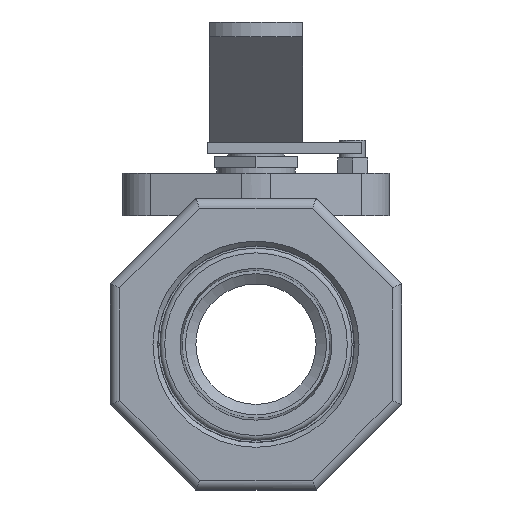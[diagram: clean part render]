
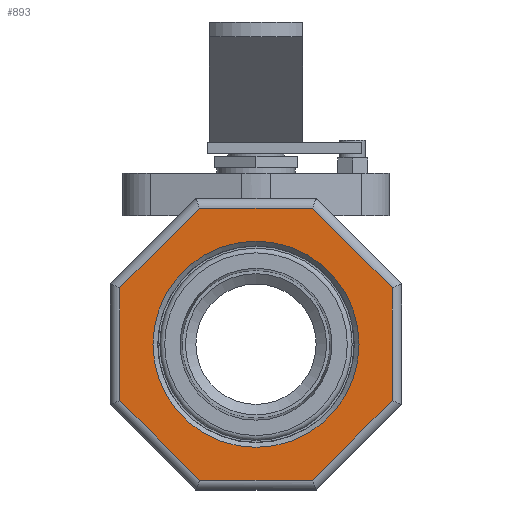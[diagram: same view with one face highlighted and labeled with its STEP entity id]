
A CAD part, left-side view. The second image highlights one B-rep face of the part: STEP entity #893.
In plain terms, the highlighted planar face has unit normal (-1, 0, 0).
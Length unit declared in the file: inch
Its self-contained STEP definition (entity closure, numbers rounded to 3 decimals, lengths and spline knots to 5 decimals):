
#807=CARTESIAN_POINT('',(0.69,1.075,0.0));
#808=VERTEX_POINT('',#807);
#809=CARTESIAN_POINT('',(0.69,0.0,0.0));
#810=DIRECTION('',(-1.0,0.0,0.0));
#811=DIRECTION('',(0.0,-1.0,0.0));
#812=AXIS2_PLACEMENT_3D('',#809,#810,#811);
#813=CIRCLE('',#812,1.075);
#814=EDGE_CURVE('',#808,#808,#813,.T.);
#819=CARTESIAN_POINT('',(0.69,0.0,0.0));
#820=DIRECTION('',(1.0,0.0,0.0));
#821=DIRECTION('',(0.0,0.0,-1.0));
#822=AXIS2_PLACEMENT_3D('',#819,#820,#821);
#823=PLANE('',#822);
#824=CARTESIAN_POINT('',(0.69,1.42,-0.58818));
#825=VERTEX_POINT('',#824);
#826=CARTESIAN_POINT('',(0.69,1.42,0.58818));
#827=VERTEX_POINT('',#826);
#828=CARTESIAN_POINT('',(0.69,1.42,-0.58818));
#829=DIRECTION('',(0.0,0.0,1.0));
#830=VECTOR('',#829,1.17637);
#831=LINE('',#828,#830);
#832=EDGE_CURVE('',#825,#827,#831,.T.);
#833=ORIENTED_EDGE('',*,*,#832,.F.);
#834=CARTESIAN_POINT('',(0.69,0.58818,-1.42));
#835=VERTEX_POINT('',#834);
#836=CARTESIAN_POINT('',(0.69,0.58818,-1.42));
#837=DIRECTION('',(0.0,0.707,0.707));
#838=VECTOR('',#837,1.17637);
#839=LINE('',#836,#838);
#840=EDGE_CURVE('',#835,#825,#839,.T.);
#841=ORIENTED_EDGE('',*,*,#840,.F.);
#842=CARTESIAN_POINT('',(0.69,-0.58818,-1.42));
#843=VERTEX_POINT('',#842);
#844=CARTESIAN_POINT('',(0.69,-0.58818,-1.42));
#845=DIRECTION('',(0.0,1.0,0.0));
#846=VECTOR('',#845,1.17637);
#847=LINE('',#844,#846);
#848=EDGE_CURVE('',#843,#835,#847,.T.);
#849=ORIENTED_EDGE('',*,*,#848,.F.);
#850=CARTESIAN_POINT('',(0.69,-1.42,-0.58818));
#851=VERTEX_POINT('',#850);
#852=CARTESIAN_POINT('',(0.69,-1.42,-0.58818));
#853=DIRECTION('',(0.0,0.707,-0.707));
#854=VECTOR('',#853,1.17637);
#855=LINE('',#852,#854);
#856=EDGE_CURVE('',#851,#843,#855,.T.);
#857=ORIENTED_EDGE('',*,*,#856,.F.);
#858=CARTESIAN_POINT('',(0.69,-1.42,0.58818));
#859=VERTEX_POINT('',#858);
#860=CARTESIAN_POINT('',(0.69,-1.42,0.58818));
#861=DIRECTION('',(0.0,0.0,-1.0));
#862=VECTOR('',#861,1.17637);
#863=LINE('',#860,#862);
#864=EDGE_CURVE('',#859,#851,#863,.T.);
#865=ORIENTED_EDGE('',*,*,#864,.F.);
#866=CARTESIAN_POINT('',(0.69,-0.58818,1.42));
#867=VERTEX_POINT('',#866);
#868=CARTESIAN_POINT('',(0.69,-0.58818,1.42));
#869=DIRECTION('',(0.0,-0.707,-0.707));
#870=VECTOR('',#869,1.17637);
#871=LINE('',#868,#870);
#872=EDGE_CURVE('',#867,#859,#871,.T.);
#873=ORIENTED_EDGE('',*,*,#872,.F.);
#874=CARTESIAN_POINT('',(0.69,0.58818,1.42));
#875=VERTEX_POINT('',#874);
#876=CARTESIAN_POINT('',(0.69,0.58818,1.42));
#877=DIRECTION('',(0.0,-1.0,0.0));
#878=VECTOR('',#877,1.17637);
#879=LINE('',#876,#878);
#880=EDGE_CURVE('',#875,#867,#879,.T.);
#881=ORIENTED_EDGE('',*,*,#880,.F.);
#882=CARTESIAN_POINT('',(0.69,1.42,0.58818));
#883=DIRECTION('',(0.0,-0.707,0.707));
#884=VECTOR('',#883,1.17637);
#885=LINE('',#882,#884);
#886=EDGE_CURVE('',#827,#875,#885,.T.);
#887=ORIENTED_EDGE('',*,*,#886,.F.);
#888=EDGE_LOOP('',(#833,#841,#849,#857,#865,#873,#881,#887));
#889=FACE_OUTER_BOUND('',#888,.T.);
#890=ORIENTED_EDGE('',*,*,#814,.F.);
#891=EDGE_LOOP('',(#890));
#892=FACE_BOUND('',#891,.T.);
#893=ADVANCED_FACE('',(#889,#892),#823,.F.);
